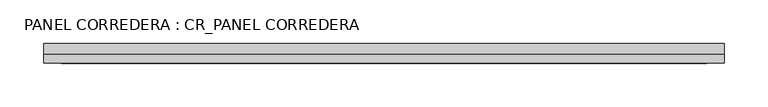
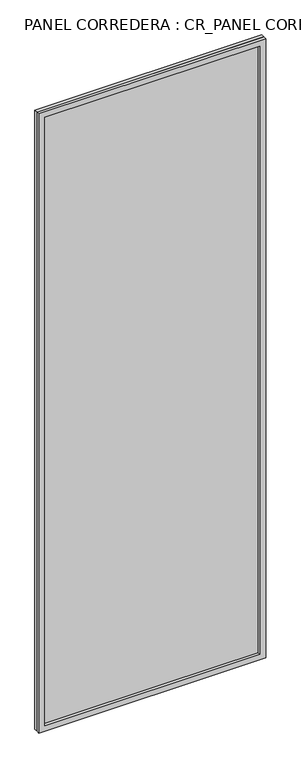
"""IFC4 building model written with IfcOpenShell, lengths in millimetres: plate geometry, PANEL CORREDERA : CR_PANEL CORREDERA."""

import ifcopenshell
import ifcopenshell.guid

model = None  # the IFC model being written
_history = None  # IfcOwnerHistory: only IFC2X3 demands one
_inside = {}  # id of a spatial element -> (the spatial element, [elements in it])
_under = {}  # id of a project, library or spatial element -> (it, [spatial elements below it])
_declared = {}  # id of a project -> (the project, [libraries it declares])
_typed = {}  # id of a type object -> (the type object, [elements of that type])
_made_of = {}  # id of a material, layer set ... -> (it, [elements and type objects made of it])


def new_model(schema):
    """Start an empty IFC model of exactly this schema.

    Asked for "IFC4X3", IfcOpenShell would pick the latest addendum, in which some entities
    have other attributes; the version numbers below select the first issue.
    IFC2X3 requires an IfcOwnerHistory on every rooted entity: one is made here for all.
    """
    global model, _history
    if schema == "IFC4X3":
        model = ifcopenshell.file(schema_version=(4, 3, 0, 0))
    else:
        model = ifcopenshell.file(schema=schema)
    _inside.clear()
    _under.clear()
    _declared.clear()
    _typed.clear()
    _made_of.clear()
    _history = None
    if model.schema == "IFC2X3":
        org = make("IfcOrganization", Name="unknown")
        user = make(
            "IfcPersonAndOrganization",
            ThePerson=make("IfcPerson", FamilyName="unknown"),
            TheOrganization=org,
        )
        app = make(
            "IfcApplication",
            ApplicationDeveloper=org,
            Version="unknown",
            ApplicationFullName="unknown",
            ApplicationIdentifier="unknown",
        )
        _history = make(
            "IfcOwnerHistory",
            OwningUser=user,
            OwningApplication=app,
            ChangeAction="ADDED",
            CreationDate=0,
        )
    return model


def make(cls, **values):
    """One entity of the class cls with the attributes given. An attribute that is None is left unset."""
    return model.create_entity(
        cls, **{name: value for name, value in values.items() if value is not None}
    )


def rooted(cls, **values):
    """An entity with a GlobalId (a new one), such as an element, a storey or a relation."""
    return make(cls, GlobalId=ifcopenshell.guid.new(), OwnerHistory=_history, **values)


def si_unit(unit_type, name, prefix=None):
    """IfcSIUnit, for example si_unit("LENGTHUNIT", "METRE", prefix="MILLI")."""
    return make("IfcSIUnit", UnitType=unit_type, Prefix=prefix, Name=name)


def assignment(units):
    """IfcUnitAssignment: the units of a project."""
    return None if units is None else make("IfcUnitAssignment", Units=units)


def point(xyz):
    """IfcCartesianPoint."""
    return None if xyz is None else make("IfcCartesianPoint", Coordinates=xyz)


def direction(xyz):
    """IfcDirection."""
    return None if xyz is None else make("IfcDirection", DirectionRatios=xyz)


def frame(location, z_axis=None, x_axis=None):
    """IfcAxis2Placement3D, a coordinate frame: its origin and axes. An axis left out is left unset."""
    return make(
        "IfcAxis2Placement3D",
        Location=point(location),
        Axis=direction(z_axis),
        RefDirection=direction(x_axis),
    )


def origin():
    """The frame at (0, 0, 0) with its axes left unset."""
    return frame((0.0, 0.0, 0.0))


def origin_with_axes():
    """The frame at (0, 0, 0) with the z axis (0, 0, 1) and the x axis (1, 0, 0) written out."""
    return frame((0.0, 0.0, 0.0), z_axis=(0.0, 0.0, 1.0), x_axis=(1.0, 0.0, 0.0))


def place(relative_to, where):
    """IfcLocalPlacement: puts the frame where relative to a parent placement (None: the world)."""
    return make(
        "IfcLocalPlacement", PlacementRelTo=relative_to, RelativePlacement=where
    )


def context(
    kind, dimensions, precision=None, world=None, true_north=None, identifier=None
):
    """IfcGeometricRepresentationContext, for example the 3D "Model" context."""
    return make(
        "IfcGeometricRepresentationContext",
        ContextIdentifier=identifier,
        ContextType=kind,
        CoordinateSpaceDimension=dimensions,
        Precision=precision,
        WorldCoordinateSystem=world,
        TrueNorth=true_north,
    )


def project(units=None, contexts=None):
    """IfcProject with its units and contexts."""
    return rooted(
        "IfcProject",
        Name="project",
        RepresentationContexts=contexts,
        UnitsInContext=assignment(units),
    )


def spatial(cls, under=None, at=None, **own):
    """A site, building, storey or space (cls), placed at a placement, below another one or the project."""
    s = rooted(cls, ObjectPlacement=at, **own)
    if under is not None:
        _under.setdefault(under.id(), (under, []))[1].append(s)
    return s


def polyline(points):
    """IfcPolyline through the points."""
    return make("IfcPolyline", Points=[point(p) for p in points])


def outline(outer, holes=None, kind="AREA"):
    """IfcArbitraryClosedProfileDef: a profile drawn as a closed curve; with holes, ...WithVoids."""
    if holes is None:
        return make("IfcArbitraryClosedProfileDef", ProfileType=kind, OuterCurve=outer)
    return make(
        "IfcArbitraryProfileDefWithVoids",
        ProfileType=kind,
        OuterCurve=outer,
        InnerCurves=holes,
    )


def extrude(swept, where, along, depth):
    """IfcExtrudedAreaSolid: the profile swept, set in the frame where, extruded along a direction by depth."""
    return make(
        "IfcExtrudedAreaSolid",
        SweptArea=swept,
        Position=where,
        ExtrudedDirection=direction(along),
        Depth=depth,
    )


def shape(context_of_items, identifier, shape_type, items):
    """IfcShapeRepresentation: the items that make up one representation, for example the "Body"."""
    return make(
        "IfcShapeRepresentation",
        ContextOfItems=context_of_items,
        RepresentationIdentifier=identifier,
        RepresentationType=shape_type,
        Items=items,
    )


def source(mapping_origin, context_of_items, identifier, shape_type, items):
    """IfcRepresentationMap: a shape defined once, which mapped items show again and again."""
    return make(
        "IfcRepresentationMap",
        MappingOrigin=mapping_origin,
        MappedRepresentation=shape(context_of_items, identifier, shape_type, items),
    )


def transform(
    local_origin,
    x_axis=None,
    y_axis=None,
    z_axis=None,
    scale=None,
    scale2=None,
    scale3=None,
    uniform=True,
):
    """IfcCartesianTransformationOperator3D, or its non-uniform kind. x_axis, y_axis, z_axis: its Axis1, 2, 3."""
    if uniform:
        return make(
            "IfcCartesianTransformationOperator3D",
            Axis1=direction(x_axis),
            Axis2=direction(y_axis),
            LocalOrigin=point(local_origin),
            Scale=scale,
            Axis3=direction(z_axis),
        )
    return make(
        "IfcCartesianTransformationOperator3DnonUniform",
        Axis1=direction(x_axis),
        Axis2=direction(y_axis),
        LocalOrigin=point(local_origin),
        Scale=scale,
        Axis3=direction(z_axis),
        Scale2=scale2,
        Scale3=scale3,
    )


def mapped(mapping_source, mapping_target):
    """IfcMappedItem: shows the shape of a source again, moved by a transform."""
    return make(
        "IfcMappedItem", MappingSource=mapping_source, MappingTarget=mapping_target
    )


def made_of(thing, what):
    """Note that an element or type object is made of a material, layer set ...; save() writes the relation."""
    if what is not None:
        _made_of.setdefault(what.id(), (what, []))[1].append(thing)
    return thing


def element(
    cls,
    number,
    at=None,
    inside=None,
    cuts=None,
    type_object=None,
    material=None,
    context=None,
    identifier="Body",
    shape_type=None,
    held_by="IfcProductDefinitionShape",
    body=None,
    shapes=None,
    **own,
):
    """One element of the class cls, such as IfcWall. Its Tag is "e" and its number.

    at: its placement. inside: the storey or other place that contains it. cuts: it is an
    opening in that element (IfcRelVoidsElement). A single representation is given by context,
    identifier, shape_type and body (its items); several are given by shapes. held_by: the class
    of the entity that holds the representations. save() writes the other relations.
    """
    e = rooted(cls, Tag="e%d" % number, ObjectPlacement=at, **own)
    if body is not None:
        shapes = [shape(context, identifier, shape_type, body)]
    if shapes is not None:
        e.Representation = make(held_by, Representations=shapes)
    if inside is not None:
        _inside.setdefault(inside.id(), (inside, []))[1].append(e)
    if cuts is not None:
        rooted(
            "IfcRelVoidsElement", RelatingBuildingElement=cuts, RelatedOpeningElement=e
        )
    if type_object is not None:
        _typed.setdefault(type_object.id(), (type_object, []))[1].append(e)
    return made_of(e, material)


def aggregate(whole, parts):
    """IfcRelAggregates: a whole, such as a stair, and the parts it consists of."""
    return rooted("IfcRelAggregates", RelatingObject=whole, RelatedObjects=parts)


def save(model, path):
    """Write the relations noted so far, then the file.

    IfcRelAggregates (storeys below a building ...), IfcRelContainedInSpatialStructure (elements
    in a storey), IfcRelDefinesByType, IfcRelAssociatesMaterial and IfcRelDeclares: one each for
    every whole, place, type object, material and project.
    """
    for whole, parts in _under.values():
        aggregate(whole, parts)
    for where, things in _inside.values():
        rooted(
            "IfcRelContainedInSpatialStructure",
            RelatedElements=things,
            RelatingStructure=where,
        )
    for kind, things in _typed.values():
        rooted("IfcRelDefinesByType", RelatedObjects=things, RelatingType=kind)
    for what, things in _made_of.values():
        rooted("IfcRelAssociatesMaterial", RelatedObjects=things, RelatingMaterial=what)
    for by, libraries in _declared.values():
        rooted("IfcRelDeclares", RelatingContext=by, RelatedDefinitions=libraries)
    model.write(path)


def panel_corredera_cr_panel_corredera_4796692a(model_context):
    return source(origin(), model_context, "Body", "SweptSolid", [
        extrude(outline(polyline([(2250.0, -315.0), (0.0, -315.0), (0.0, 465.0), (2250.0, 465.0), (2250.0, -315.0)]), holes=[polyline([(2230.0, -295.0), (2230.0, 445.0), (20.0, 445.0), (20.0, -295.0), (2230.0, -295.0)])]), frame((0.0, 20.0, 0.0), z_axis=(0.0, 1.0, 0.0), x_axis=(0.0, 0.0, 1.0)), (0.0, 0.0, 1.0), 10.0),
        extrude(outline(polyline([(465.0, 30.0), (-315.0, 30.0), (-315.0, 42.5), (465.0, 42.5), (465.0, 30.0)])), origin_with_axes(), (0.0, 0.0, 1.0), 2250.0),
    ])


if __name__ == "__main__":
    model = new_model("IFC4")
    model_context = context("Model", 3, world=origin())
    ifc_project = project(units=[si_unit("LENGTHUNIT", "METRE", prefix="MILLI")], contexts=[model_context])
    site = spatial("IfcSite", under=ifc_project)
    building = spatial("IfcBuilding", under=site)
    placement = place(None, origin())
    panel_corredera_cr_panel_corredera_shape = panel_corredera_cr_panel_corredera_4796692a(model_context)
    element("IfcPlate", 1, ObjectType="PANEL CORREDERA : CR_PANEL CORREDERA", at=placement, inside=building, context=model_context, shape_type="MappedRepresentation", body=[
        mapped(panel_corredera_cr_panel_corredera_shape, transform((0.0, 0.0, 0.0), x_axis=(1.0, 0.0, 0.0), y_axis=(0.0, 1.0, 0.0), z_axis=(0.0, 0.0, 1.0))),
    ])
    save(model, "model.ifc")
